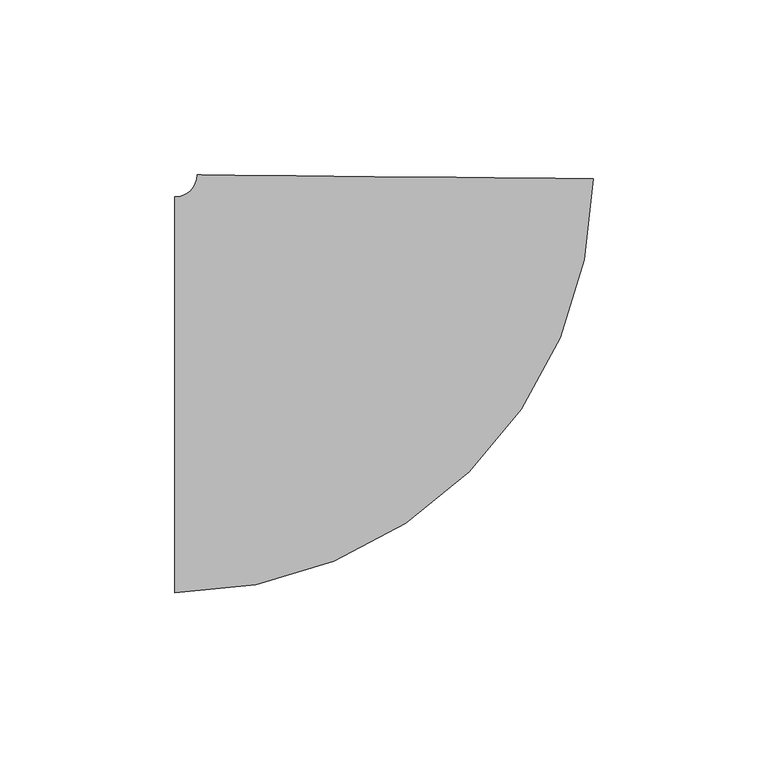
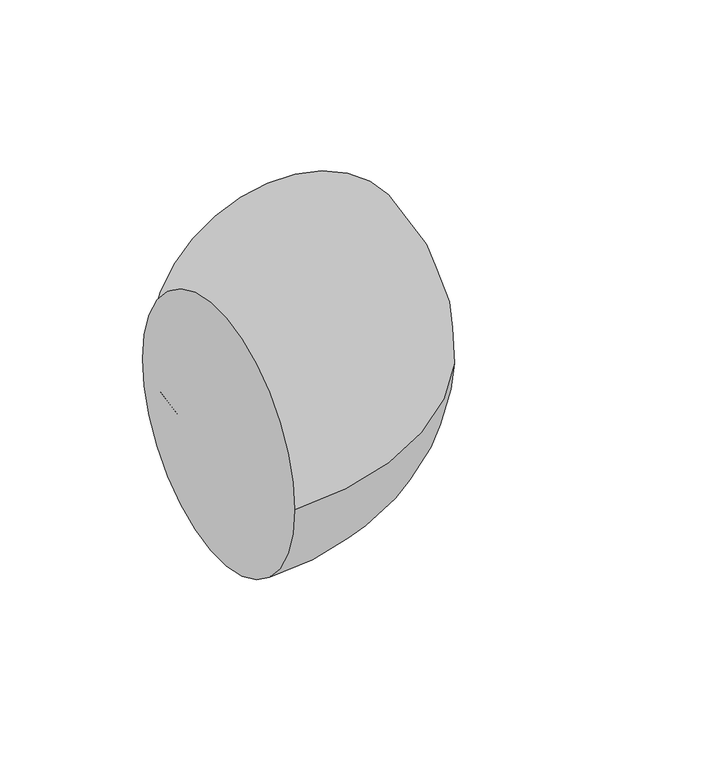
"""IFC4 building model written with IfcOpenShell, lengths in millimetres: pipe fitting geometry, M_Codo - Genérico : Estándar."""

from ifc_helpers import new_model, si_unit, point, frame, origin, place, context, project, spatial, circle_curve, ellipse_curve, trimmed, source, transform, mapped, element, save
from ifc_brep_helpers import plane_surface, revolved_surface, advanced_brep


def pipe_fitting_fa926298(model_context):
    return source(origin(), model_context, "Body", "AdvancedBrep", [
        advanced_brep(
        [(-62.3167271, -56.5875, 0.0), (-62.3167271, 56.5875, 0.0), (57.2024013, 61.7527725, 0.0), (-55.967039, 62.874559, 0.0)],
        [
            (0, 1, circle_curve(frame((-62.3167271, 0.0, 0.0), z_axis=(-1.0, 0.0, 0.0), x_axis=(0.0, 1.0, 0.0)), 56.5875)),
            (1, 0, circle_curve(frame((-62.3167271, 0.0, 0.0), z_axis=(-1.0, 0.0, 0.0), x_axis=(0.0, 1.0, 0.0)), 56.5875)),
            (2, 3, circle_curve(frame((0.6176811, 62.3136658, 0.0), z_axis=(0.0099119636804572, 0.9999508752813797, 0.0), x_axis=(-0.9999508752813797, 0.0099119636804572, 0.0)), 56.5875)),
            (3, 2, circle_curve(frame((0.6176811, 62.3136658, 0.0), z_axis=(0.0099119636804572, 0.9999508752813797, 0.0), x_axis=(-0.9999508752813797, 0.0099119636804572, 0.0)), 56.5875)),
            (3, 1, circle_curve(frame((-62.3167271, 62.9375, 0.0), z_axis=(0.0, 0.0, -1.0), x_axis=(0.0, -1.0, 0.0)), 6.35)),
            (0, 2, circle_curve(frame((-62.3167271, 62.9375, 0.0), z_axis=(0.0, 0.0, 1.0), x_axis=(0.0, -1.0, 0.0)), 119.525)),
        ],
        [
            plane_surface(frame((-62.3167271, 0.0, 0.0), z_axis=(-1.0, 0.0, 0.0), x_axis=(0.0, 0.0, 1.0))),
            plane_surface(frame((0.6176811, 62.3136658, 0.0), z_axis=(0.009911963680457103, 0.9999508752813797, 0.0), x_axis=(0.0, 0.0, 1.0))),
            revolved_surface(trimmed(ellipse_curve(frame((-62.3167271, 0.0, 0.0), z_axis=(-1.0, 0.0, 0.0), x_axis=(0.0, 1.0, 0.0)), 56.5875, 56.5875), [point((-62.3167271, -56.5875, 0.0))], [point((-62.3167271, 56.5875, 0.0))], True, "CARTESIAN"), (-62.3167271, 62.9375, 0.0), (0.0, 0.0, 1.0)),
            revolved_surface(trimmed(ellipse_curve(frame((-62.3167271, 0.0, 0.0), z_axis=(-1.0, 0.0, 0.0), x_axis=(0.0, 1.0, 0.0)), 56.5875, 56.5875), [point((-62.3167271, 56.5875, 0.0))], [point((-62.3167271, -56.5875, 0.0))], True, "CARTESIAN"), (-62.3167271, 62.9375, 0.0), (0.0, 0.0, 1.0)),
        ],
        [
            (0, [[1, 2]]),
            (1, [[3, 4]]),
            (2, [[5, -1, 6, -4]]),
            (3, [[-6, -2, -5, -3]]),
        ],
    ),
    ])


if __name__ == "__main__":
    model = new_model("IFC4")
    model_context = context("Model", 3, world=origin())
    ifc_project = project(units=[si_unit("LENGTHUNIT", "METRE", prefix="MILLI")], contexts=[model_context])
    site = spatial("IfcSite", under=ifc_project)
    building = spatial("IfcBuilding", under=site)
    placement = place(None, origin())
    pipe_fitting_shape = pipe_fitting_fa926298(model_context)
    element("IfcPipeFitting", 1, ObjectType="M_Codo - Genérico : Estándar", at=placement, inside=building, context=model_context, shape_type="MappedRepresentation", body=[
        mapped(pipe_fitting_shape, transform((0.0, 0.0, 0.0), x_axis=(1.0, 0.0, 0.0), y_axis=(0.0, 1.0, 0.0), z_axis=(0.0, 0.0, 1.0))),
    ])
    save(model, "model.ifc")
